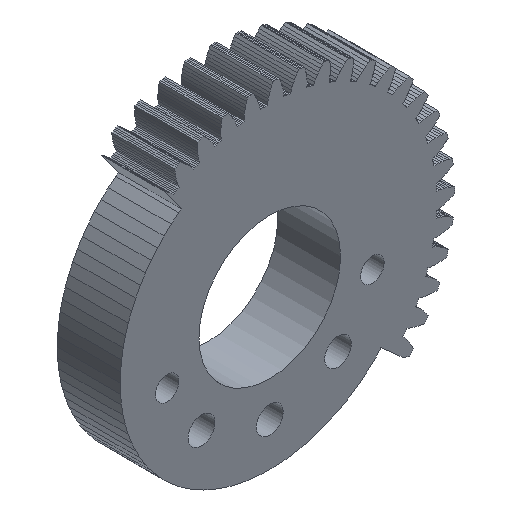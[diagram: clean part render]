
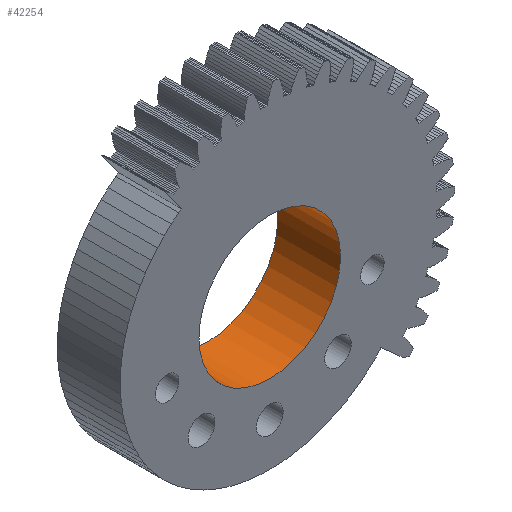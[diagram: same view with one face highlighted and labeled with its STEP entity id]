
A CAD part, isometric view. The second image highlights one B-rep face of the part: STEP entity #42254.
In plain terms, the highlighted cylindrical face has radius 9 mm (diameter 18 mm), a full revolution.
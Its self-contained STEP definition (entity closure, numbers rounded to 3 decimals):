
#72 = PLANE('',#73);
#73 = AXIS2_PLACEMENT_3D('',#74,#75,#76);
#74 = CARTESIAN_POINT('',(0.,-68.,0.));
#75 = DIRECTION('',(0.,-1.,0.));
#76 = DIRECTION('',(1.,0.,0.));
#126 = PLANE('',#127);
#127 = AXIS2_PLACEMENT_3D('',#128,#129,#130);
#128 = CARTESIAN_POINT('',(0.,-60.,0.)
  );
#129 = DIRECTION('',(0.,-1.,0.));
#130 = DIRECTION('',(1.,0.,0.));
#15313 = EDGE_CURVE('',#15314,#15314,#15316,.T.);
#15314 = VERTEX_POINT('',#15315);
#15315 = CARTESIAN_POINT('',(9.,-60.,0.));
#15316 = SURFACE_CURVE('',#15317,(#15322,#15329),.PCURVE_S1.);
#15317 = CIRCLE('',#15318,9.);
#15318 = AXIS2_PLACEMENT_3D('',#15319,#15320,#15321);
#15319 = CARTESIAN_POINT('',(0.,-60.,0.));
#15320 = DIRECTION('',(0.,-1.,-0.));
#15321 = DIRECTION('',(1.,0.,0.));
#15322 = PCURVE('',#126,#15323);
#15323 = DEFINITIONAL_REPRESENTATION('',(#15324),#15328);
#15324 = CIRCLE('',#15325,9.);
#15325 = AXIS2_PLACEMENT_2D('',#15326,#15327);
#15326 = CARTESIAN_POINT('',(0.,0.));
#15327 = DIRECTION('',(1.,0.));
#15328 = ( GEOMETRIC_REPRESENTATION_CONTEXT(2) 
PARAMETRIC_REPRESENTATION_CONTEXT() REPRESENTATION_CONTEXT('2D SPACE',''
  ) );
#15329 = PCURVE('',#15330,#15335);
#15330 = CYLINDRICAL_SURFACE('',#15331,9.);
#15331 = AXIS2_PLACEMENT_3D('',#15332,#15333,#15334);
#15332 = CARTESIAN_POINT('',(0.,-69.,0.));
#15333 = DIRECTION('',(0.,-1.,-0.));
#15334 = DIRECTION('',(1.,0.,0.));
#15335 = DEFINITIONAL_REPRESENTATION('',(#15336),#15340);
#15336 = LINE('',#15337,#15338);
#15337 = CARTESIAN_POINT('',(-6.283,-9.));
#15338 = VECTOR('',#15339,1.);
#15339 = DIRECTION('',(1.,-0.));
#15340 = ( GEOMETRIC_REPRESENTATION_CONTEXT(2) 
PARAMETRIC_REPRESENTATION_CONTEXT() REPRESENTATION_CONTEXT('2D SPACE',''
  ) );
#27675 = EDGE_CURVE('',#27676,#27676,#27678,.T.);
#27676 = VERTEX_POINT('',#27677);
#27677 = CARTESIAN_POINT('',(9.,-68.,0.));
#27678 = SURFACE_CURVE('',#27679,(#27684,#27691),.PCURVE_S1.);
#27679 = CIRCLE('',#27680,9.);
#27680 = AXIS2_PLACEMENT_3D('',#27681,#27682,#27683);
#27681 = CARTESIAN_POINT('',(0.,-68.,0.));
#27682 = DIRECTION('',(0.,-1.,-0.));
#27683 = DIRECTION('',(1.,0.,0.));
#27684 = PCURVE('',#72,#27685);
#27685 = DEFINITIONAL_REPRESENTATION('',(#27686),#27690);
#27686 = CIRCLE('',#27687,9.);
#27687 = AXIS2_PLACEMENT_2D('',#27688,#27689);
#27688 = CARTESIAN_POINT('',(0.,0.));
#27689 = DIRECTION('',(1.,0.));
#27690 = ( GEOMETRIC_REPRESENTATION_CONTEXT(2) 
PARAMETRIC_REPRESENTATION_CONTEXT() REPRESENTATION_CONTEXT('2D SPACE',''
  ) );
#27691 = PCURVE('',#15330,#27692);
#27692 = DEFINITIONAL_REPRESENTATION('',(#27693),#27697);
#27693 = LINE('',#27694,#27695);
#27694 = CARTESIAN_POINT('',(-6.283,-1.));
#27695 = VECTOR('',#27696,1.);
#27696 = DIRECTION('',(1.,-0.));
#27697 = ( GEOMETRIC_REPRESENTATION_CONTEXT(2) 
PARAMETRIC_REPRESENTATION_CONTEXT() REPRESENTATION_CONTEXT('2D SPACE',''
  ) );
#42254 = ADVANCED_FACE('',(#42255),#15330,.F.);
#42255 = FACE_BOUND('',#42256,.T.);
#42256 = EDGE_LOOP('',(#42257,#42258,#42279,#42280));
#42257 = ORIENTED_EDGE('',*,*,#27675,.T.);
#42258 = ORIENTED_EDGE('',*,*,#42259,.T.);
#42259 = EDGE_CURVE('',#27676,#15314,#42260,.T.);
#42260 = SEAM_CURVE('',#42261,(#42265,#42272),.PCURVE_S1.);
#42261 = LINE('',#42262,#42263);
#42262 = CARTESIAN_POINT('',(9.,-69.,0.));
#42263 = VECTOR('',#42264,1.);
#42264 = DIRECTION('',(0.,1.,0.));
#42265 = PCURVE('',#15330,#42266);
#42266 = DEFINITIONAL_REPRESENTATION('',(#42267),#42271);
#42267 = LINE('',#42268,#42269);
#42268 = CARTESIAN_POINT('',(-6.283,0.));
#42269 = VECTOR('',#42270,1.);
#42270 = DIRECTION('',(-0.,-1.));
#42271 = ( GEOMETRIC_REPRESENTATION_CONTEXT(2) 
PARAMETRIC_REPRESENTATION_CONTEXT() REPRESENTATION_CONTEXT('2D SPACE',''
  ) );
#42272 = PCURVE('',#15330,#42273);
#42273 = DEFINITIONAL_REPRESENTATION('',(#42274),#42278);
#42274 = LINE('',#42275,#42276);
#42275 = CARTESIAN_POINT('',(-0.,0.));
#42276 = VECTOR('',#42277,1.);
#42277 = DIRECTION('',(-0.,-1.));
#42278 = ( GEOMETRIC_REPRESENTATION_CONTEXT(2) 
PARAMETRIC_REPRESENTATION_CONTEXT() REPRESENTATION_CONTEXT('2D SPACE',''
  ) );
#42279 = ORIENTED_EDGE('',*,*,#15313,.F.);
#42280 = ORIENTED_EDGE('',*,*,#42259,.F.);
